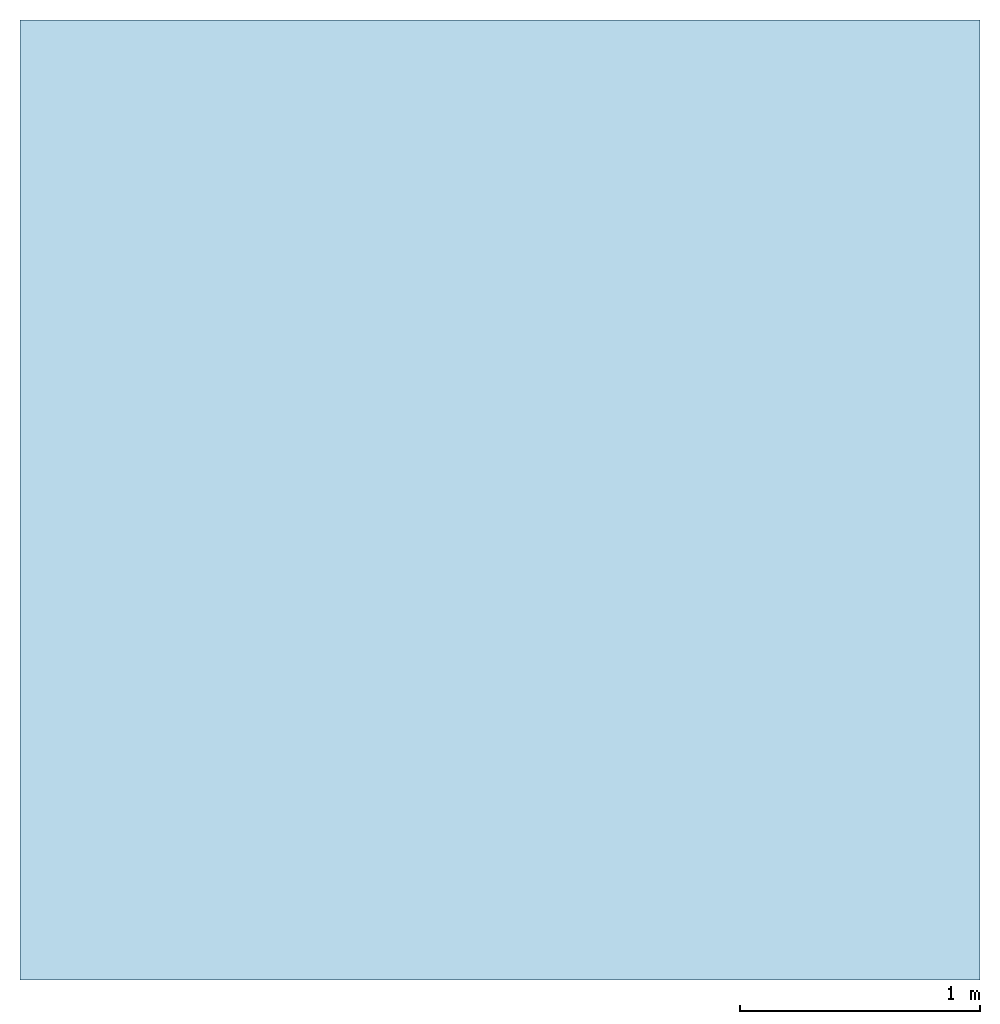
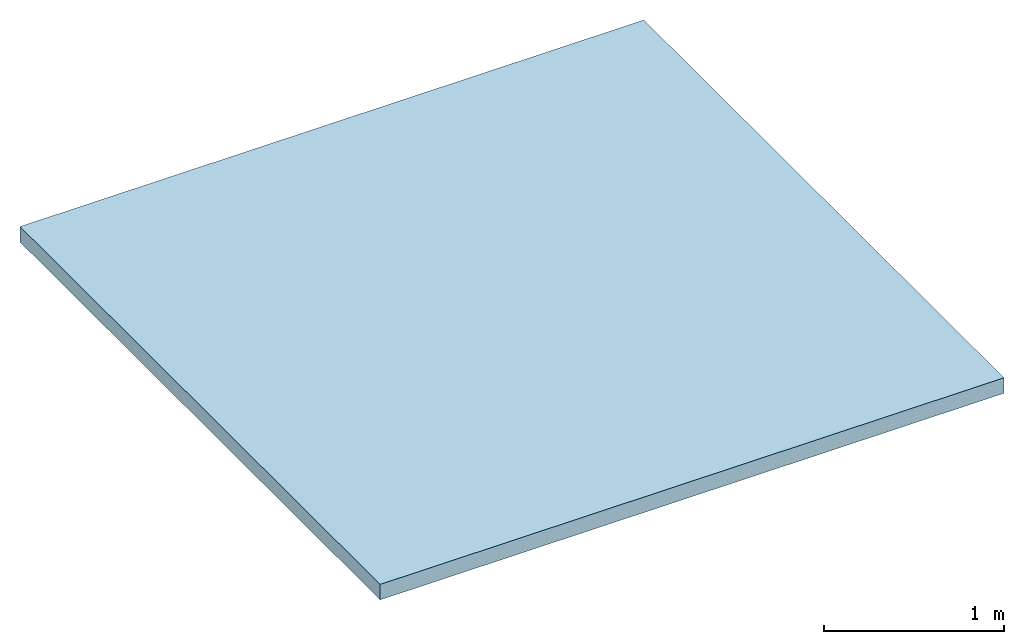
# One storey: 1 slab, 1 element without a shape of its own.
"""IFC2X3 building model written with IfcOpenShell, lengths in millimetres."""

from ifc_helpers import new_model, entity, si_unit, converted_unit, derived_unit, direction, frame, frame_2d, origin, place, context, subcontext, project, spatial, rectangle, extrude, material, layer, layer_set, element, aggregate, save


model = new_model("IFC2X3")

# Units and contexts
model_context = context("Model", 3, precision=0.01, world=origin(), true_north=direction((6.12303176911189e-17, 1.0)))
body_context = subcontext(model_context, "Body", "Model", "MODEL_VIEW")
ifc_project = project(units=[si_unit("LENGTHUNIT", "METRE", prefix="MILLI"), si_unit("AREAUNIT", "SQUARE_METRE"), si_unit("VOLUMEUNIT", "CUBIC_METRE"), converted_unit("PLANEANGLEUNIT", "DEGREE", entity("IfcRatioMeasure", 0.0174532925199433), si_unit("PLANEANGLEUNIT", "RADIAN"), dimensions=[0, 0, 0, 0, 0, 0, 0]), si_unit("MASSUNIT", "GRAM", prefix="KILO"), derived_unit("MASSDENSITYUNIT", [(si_unit("MASSUNIT", "GRAM", prefix="KILO"), 1), (si_unit("LENGTHUNIT", "METRE"), -3)]), si_unit("TIMEUNIT", "SECOND"), si_unit("FREQUENCYUNIT", "HERTZ"), si_unit("THERMODYNAMICTEMPERATUREUNIT", "DEGREE_CELSIUS"), derived_unit("THERMALTRANSMITTANCEUNIT", [(si_unit("MASSUNIT", "GRAM", prefix="KILO"), 1), (si_unit("THERMODYNAMICTEMPERATUREUNIT", "KELVIN"), -1), (si_unit("TIMEUNIT", "SECOND"), -3)]), derived_unit("VOLUMETRICFLOWRATEUNIT", [(si_unit("LENGTHUNIT", "METRE"), 3), (si_unit("TIMEUNIT", "SECOND"), -1)]), si_unit("ELECTRICCURRENTUNIT", "AMPERE"), si_unit("ELECTRICVOLTAGEUNIT", "VOLT"), si_unit("POWERUNIT", "WATT"), si_unit("FORCEUNIT", "NEWTON", prefix="KILO"), si_unit("ILLUMINANCEUNIT", "LUX"), si_unit("LUMINOUSFLUXUNIT", "LUMEN"), si_unit("LUMINOUSINTENSITYUNIT", "CANDELA"), derived_unit("USERDEFINED", [(si_unit("MASSUNIT", "GRAM", prefix="KILO"), -1), (si_unit("LENGTHUNIT", "METRE"), -2), (si_unit("TIMEUNIT", "SECOND"), 3), (si_unit("LUMINOUSFLUXUNIT", "LUMEN"), 1)]), derived_unit("LINEARVELOCITYUNIT", [(si_unit("LENGTHUNIT", "METRE"), 1), (si_unit("TIMEUNIT", "SECOND"), -1)]), si_unit("PRESSUREUNIT", "PASCAL"), derived_unit("USERDEFINED", [(si_unit("LENGTHUNIT", "METRE"), -2), (si_unit("MASSUNIT", "GRAM", prefix="KILO"), 1), (si_unit("TIMEUNIT", "SECOND"), -2)])], contexts=[model_context])

# Site, building, storey
site_placement = place(None, origin())
site = spatial("IfcSite", under=ifc_project, at=site_placement, Name="Default", CompositionType="ELEMENT")
building_placement = place(site_placement, origin())
building = spatial("IfcBuilding", under=site, at=building_placement, CompositionType="ELEMENT")
storey_placement = place(building_placement, origin())
storey = spatial("IfcBuildingStorey", under=building, at=storey_placement, Name="Nivel 1", CompositionType="ELEMENT", Elevation=0.0)

# Roof, slab
roof_placement = place(storey_placement, frame((-6544.95271651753, -3086.84289171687, 0.0)))
roof = element("IfcRoof", 1, at=roof_placement, inside=storey, Name="Cubierta básica:Cubierta convencional no transitable - Protección ligera - BANTDGM7", ObjectType="Cubierta básica:Cubierta convencional no transitable - Protección ligera - BANTDGM7", ShapeType="NOTDEFINED")
ifc_material_1 = material(Name="Laroc S 175")
ifc_layer_1 = layer(ifc_material_1, 60.0)
ifc_material_2 = material(Name="Chapa grecada")
ifc_layer_2 = layer(ifc_material_2, 45.0)
ifc_layer_set = layer_set([ifc_layer_1, ifc_layer_2], Name="Cubierta básica:Cubierta convencional no transitable - Protección ligera - BANTDGM7")
slab_placement = place(roof_placement, origin())
slab = element("IfcSlab", 2, at=slab_placement, material=ifc_layer_set, Name="Cubierta básica:Cubierta convencional no transitable - Protección ligera - BANTDGM7", ObjectType="Cubierta básica:Cubierta convencional no transitable - Protección ligera - BANTDGM7", PredefinedType="ROOF", context=body_context, shape_type="SweptSolid", body=[
    extrude(rectangle(XDim=4000.0, YDim=4000.0, at=frame_2d((0.0, 0.0), x_axis=(-1.0, 0.0))), frame((2000.0, 2000.0, 0.0)), (0.0, 0.0, 1.0), 105.0),
])
aggregate(roof, [slab])

save(model, "model.ifc")
